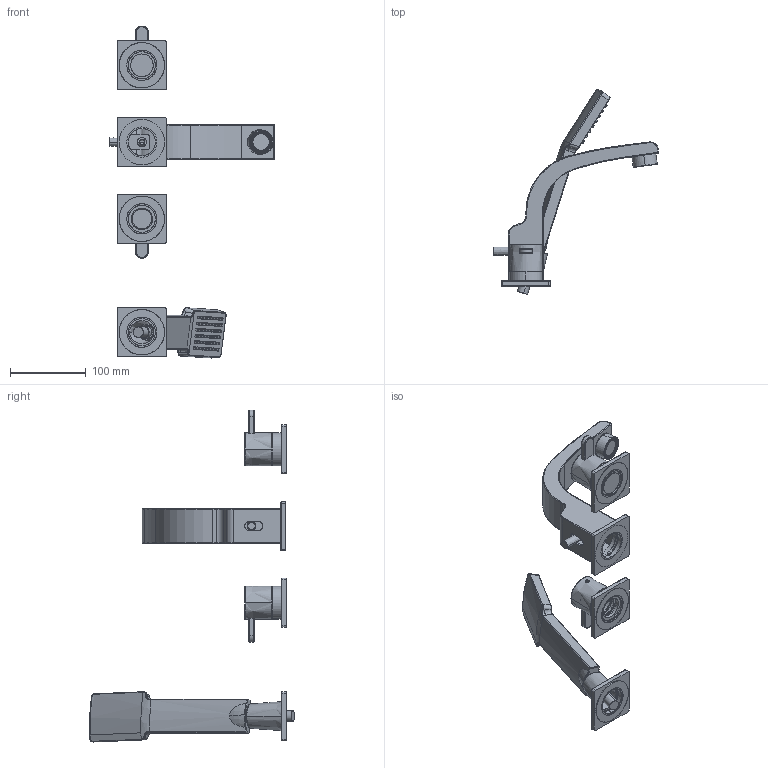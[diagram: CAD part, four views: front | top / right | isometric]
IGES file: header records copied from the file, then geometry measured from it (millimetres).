
Start section: SolidWorks IGES file using analytic representation for surfaces
Global section: file name: C:\Users\J1827277\Desktop\疏擘\FH 8110C-650.IGS,1; native system: 5HSolidWorks 2013; preprocessor: SolidWorks 2013; author: J1827277; date: 130405.081238; units: millimetre
Bounding box: 218.68 x 271.2 x 439.36 mm (x, y, z)
Surface area: 182437.9 mm2 (no closed solid volume)
Topology: 0 solids, 0 shells, 1491 faces, 17234 edges, 17074 vertices
Faces by surface type: revolution 749, bspline 742
